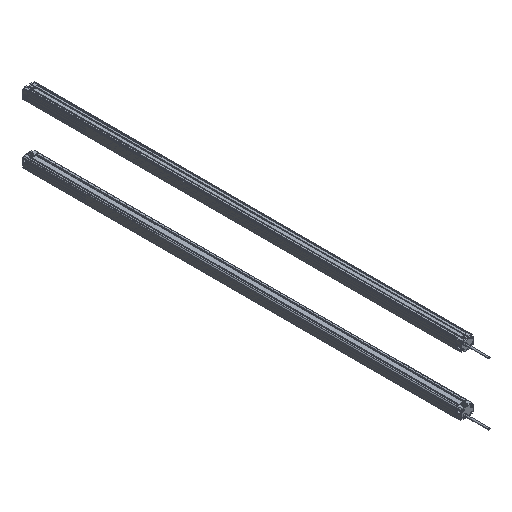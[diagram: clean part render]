
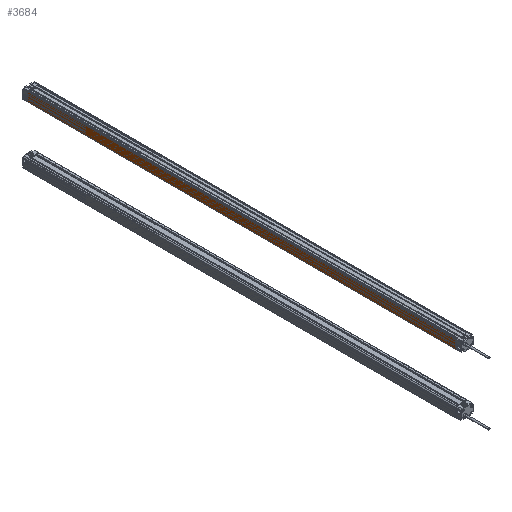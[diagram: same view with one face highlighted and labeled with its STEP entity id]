
A CAD part, isometric view. The second image highlights one B-rep face of the part: STEP entity #3684.
In plain terms, the highlighted planar face has unit normal (-1, 0, 0) as drawn and (1, 0, 0) by its records, which use the part's own axes.
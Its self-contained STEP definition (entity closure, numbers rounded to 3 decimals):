
#665 = CARTESIAN_POINT ( 'NONE',  ( 12.5, -880., 8.293 ) ) ;
#792 = LINE ( 'NONE', #6487, #2117 ) ;
#1074 = DIRECTION ( 'NONE',  ( 0., 1., 0. ) ) ;
#1447 = VECTOR ( 'NONE', #3501, 1000. ) ;
#1984 = CARTESIAN_POINT ( 'NONE',  ( 12.5, 0., 8.293 ) ) ;
#1989 = CARTESIAN_POINT ( 'NONE',  ( 12.5, -880., 8.293 ) ) ;
#2028 = VECTOR ( 'NONE', #1074, 1000. ) ;
#2042 = CARTESIAN_POINT ( 'NONE',  ( 12.5, -880., 8.293 ) ) ;
#2117 = VECTOR ( 'NONE', #4908, 1000. ) ;
#2687 = CARTESIAN_POINT ( 'NONE',  ( 12.5, -880., 8.293 ) ) ;
#2737 = CARTESIAN_POINT ( 'NONE',  ( 12.5, -880., -9.2 ) ) ;
#3018 = ORIENTED_EDGE ( 'NONE', *, *, #10689, .T. ) ;
#3024 = LINE ( 'NONE', #2687, #1447 ) ;
#3210 = ORIENTED_EDGE ( 'NONE', *, *, #10394, .T. ) ;
#3501 = DIRECTION ( 'NONE',  ( 0., 0., -1. ) ) ;
#3551 = VECTOR ( 'NONE', #9606, 1000. ) ;
#3684 = ADVANCED_FACE ( 'NONE', ( #5446 ), #10579, .T. ) ;
#4193 = LINE ( 'NONE', #2737, #2028 ) ;
#4903 = CARTESIAN_POINT ( 'NONE',  ( 12.5, -880., -9.2 ) ) ;
#4908 = DIRECTION ( 'NONE',  ( 0., 0., -1. ) ) ;
#5306 = CARTESIAN_POINT ( 'NONE',  ( 12.5, 0., -9.2 ) ) ;
#5446 = FACE_OUTER_BOUND ( 'NONE', #7999, .T. ) ;
#5639 = ORIENTED_EDGE ( 'NONE', *, *, #7513, .F. ) ;
#5712 = VERTEX_POINT ( 'NONE', #5306 ) ;
#6357 = VERTEX_POINT ( 'NONE', #1984 ) ;
#6487 = CARTESIAN_POINT ( 'NONE',  ( 12.5, 0., 8.293 ) ) ;
#6626 = DIRECTION ( 'NONE',  ( 0., 0., -1. ) ) ;
#7079 = AXIS2_PLACEMENT_3D ( 'NONE', #665, #7399, #6626 ) ;
#7399 = DIRECTION ( 'NONE',  ( 1., 0., 0. ) ) ;
#7513 = EDGE_CURVE ( 'NONE', #7573, #6357, #9926, .T. ) ;
#7573 = VERTEX_POINT ( 'NONE', #2042 ) ;
#7785 = EDGE_CURVE ( 'NONE', #6357, #5712, #792, .T. ) ;
#7999 = EDGE_LOOP ( 'NONE', ( #10544, #5639, #3018, #3210 ) ) ;
#9606 = DIRECTION ( 'NONE',  ( 0., 1., 0. ) ) ;
#9926 = LINE ( 'NONE', #1989, #3551 ) ;
#10306 = VERTEX_POINT ( 'NONE', #4903 ) ;
#10394 = EDGE_CURVE ( 'NONE', #10306, #5712, #4193, .T. ) ;
#10544 = ORIENTED_EDGE ( 'NONE', *, *, #7785, .F. ) ;
#10579 = PLANE ( 'NONE',  #7079 ) ;
#10689 = EDGE_CURVE ( 'NONE', #7573, #10306, #3024, .T. ) ;
